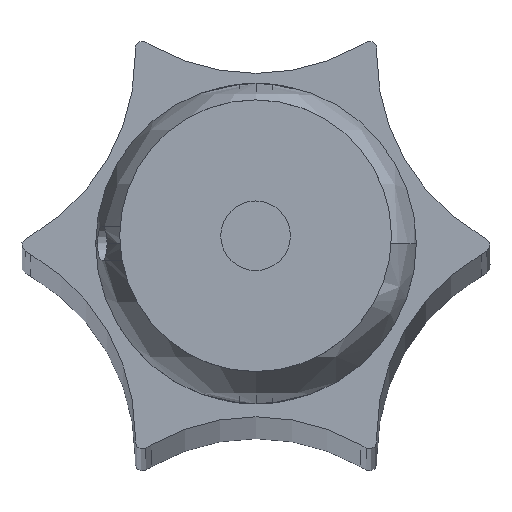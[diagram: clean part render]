
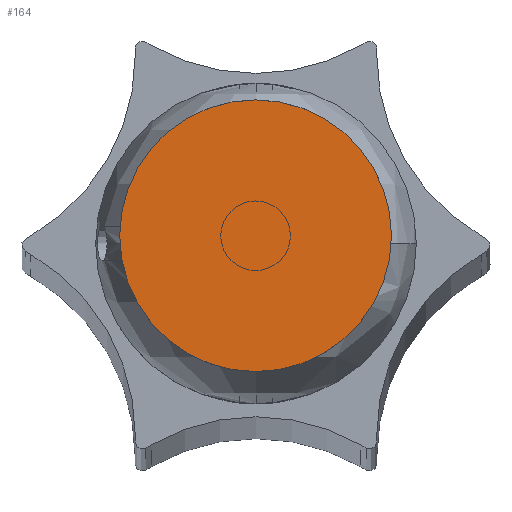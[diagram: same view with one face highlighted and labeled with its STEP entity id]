
A CAD part, top view. The second image highlights one B-rep face of the part: STEP entity #164.
In plain terms, the highlighted planar face has unit normal (0, 0, 1).
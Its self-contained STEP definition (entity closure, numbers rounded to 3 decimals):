
#164=ADVANCED_FACE('',(#244),#1291,.T.);
#244=FACE_OUTER_BOUND('',#324,.T.);
#324=EDGE_LOOP('',(#413,#414));
#413=ORIENTED_EDGE('',*,*,#845,.F.);
#414=ORIENTED_EDGE('',*,*,#841,.F.);
#841=EDGE_CURVE('',#1151,#1153,#1068,.T.);
#845=EDGE_CURVE('',#1153,#1151,#1070,.T.);
#1068=TRIMMED_CURVE($,#1370,(#1967),(#1968),.T.,.CARTESIAN.);
#1070=TRIMMED_CURVE($,#1372,(#1977),(#1978),.T.,.CARTESIAN.);
#1151=VERTEX_POINT('',#1962);
#1153=VERTEX_POINT('',#1964);
#1291=PLANE('',#1543);
#1370=CIRCLE('',#1546,9.75);
#1372=CIRCLE('',#1548,9.75);
#1543=AXIS2_PLACEMENT_3D('',#1959,#1709,$);
#1546=AXIS2_PLACEMENT_3D($,#1966,#1712,#1713);
#1548=AXIS2_PLACEMENT_3D($,#1976,#1716,#1717);
#1709=DIRECTION('',(0.,0.,1.));
#1712=DIRECTION('',(0.,0.,-1.));
#1713=DIRECTION('',(1.,0.,0.));
#1716=DIRECTION('',(0.,0.,-1.));
#1717=DIRECTION('',(-1.,0.,0.));
#1959=CARTESIAN_POINT('',(393.403,-12.054,1226.75));
#1962=CARTESIAN_POINT('',(390.966,0.133,1226.75));
#1964=CARTESIAN_POINT('',(371.466,0.133,1226.75));
#1966=CARTESIAN_POINT('',(381.216,0.133,1226.75));
#1967=CARTESIAN_POINT('',(390.966,0.133,1226.75));
#1968=CARTESIAN_POINT('',(371.466,0.133,1226.75));
#1976=CARTESIAN_POINT('',(381.216,0.133,1226.75));
#1977=CARTESIAN_POINT('',(371.466,0.133,1226.75));
#1978=CARTESIAN_POINT('',(390.966,0.133,1226.75));
